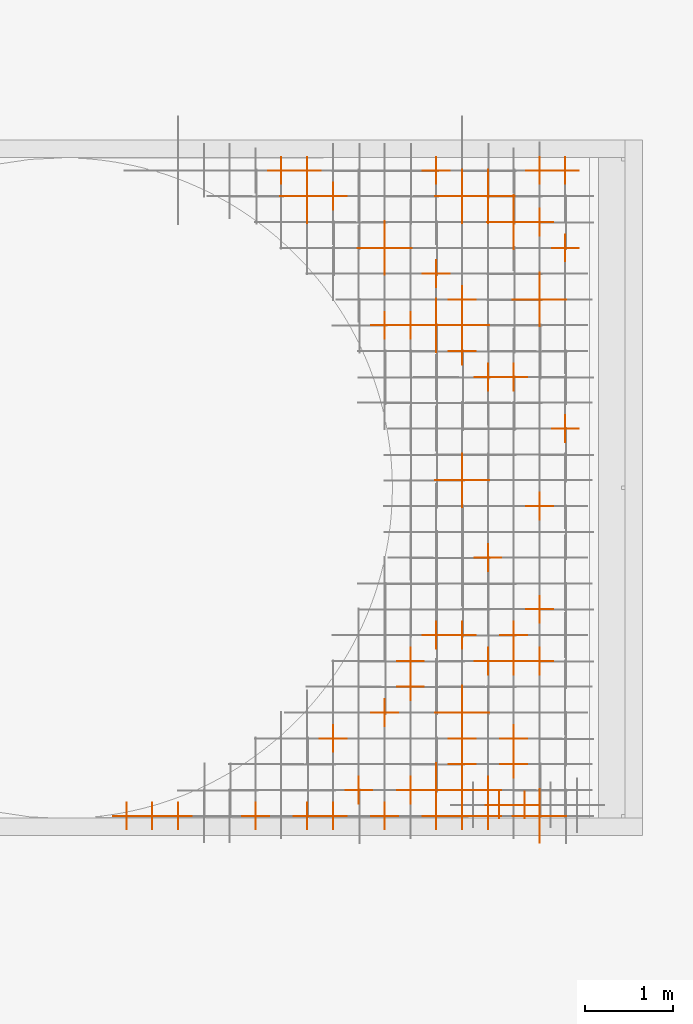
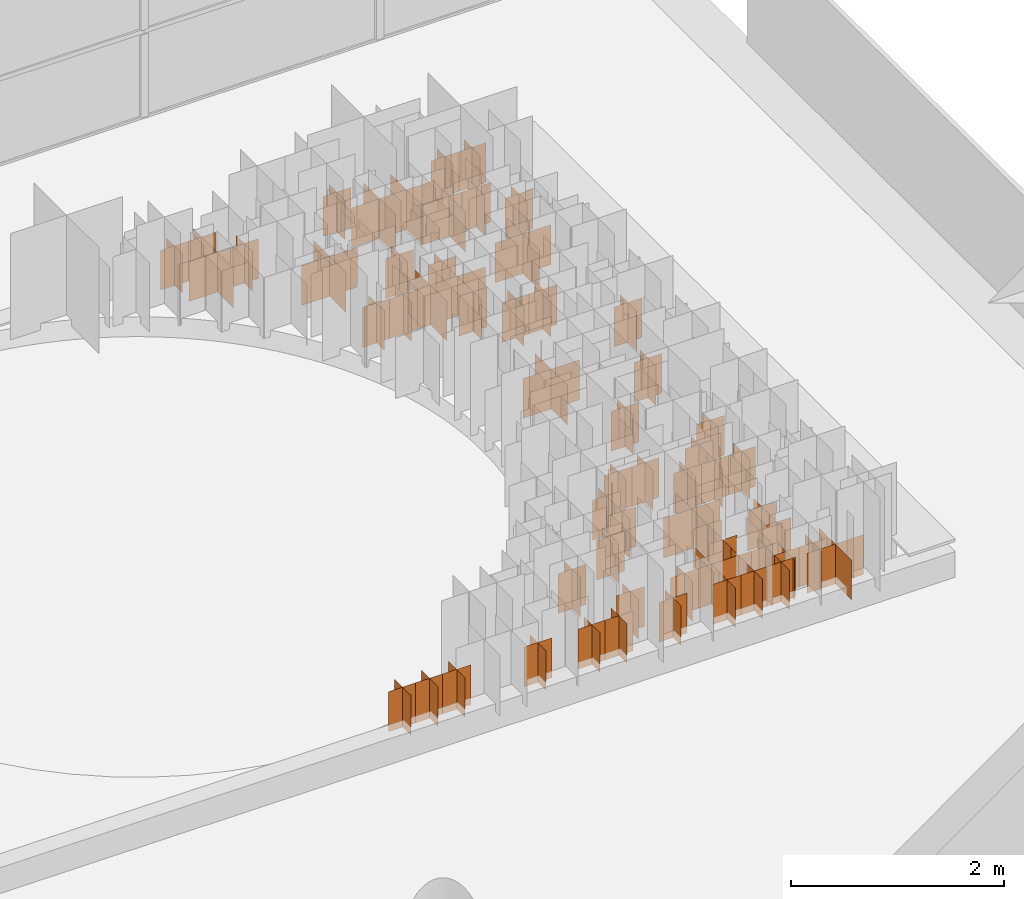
# One storey, part 105 of 105: 61 geographic elements.
"""IFC4 building model written with IfcOpenShell, lengths in millimetres."""

from ifc_helpers import new_model, entity, si_unit, converted_unit, derived_unit, direction, frame, origin_with_axes, place, context, subcontext, project, spatial, triangles, material, type_object, element, save


model = new_model("IFC4")

# Units and contexts
model_context = context("Model", 3, precision=1e-05, world=origin_with_axes(), true_north=direction((0.0, 1.0)))
body_context = subcontext(model_context, "Body", "Model", "MODEL_VIEW")
ifc_project = project(units=[si_unit("LENGTHUNIT", "METRE", prefix="MILLI"), si_unit("AREAUNIT", "SQUARE_METRE"), si_unit("VOLUMEUNIT", "CUBIC_METRE"), converted_unit("PLANEANGLEUNIT", "DEGREE", entity("IfcLengthMeasure", 0.017453), si_unit("PLANEANGLEUNIT", "RADIAN"), dimensions=[0, 0, 0, 0, 0, 0, 0]), si_unit("SOLIDANGLEUNIT", "STERADIAN"), si_unit("MASSUNIT", "GRAM"), si_unit("TIMEUNIT", "SECOND"), si_unit("THERMODYNAMICTEMPERATUREUNIT", "DEGREE_CELSIUS"), si_unit("LUMINOUSINTENSITYUNIT", "LUMEN"), si_unit("POWERUNIT", "WATT"), derived_unit("THERMALTRANSMITTANCEUNIT", [(si_unit("POWERUNIT", "WATT"), 1), (si_unit("THERMODYNAMICTEMPERATUREUNIT", "KELVIN"), -1), (si_unit("AREAUNIT", "SQUARE_METRE"), -1)])], contexts=[model_context])

# Site, building, storey
site_placement = place(None, origin_with_axes())
site = spatial("IfcSite", under=ifc_project, at=site_placement, Name="Default Site", CompositionType="ELEMENT")
building_placement = place(site_placement, origin_with_axes())
building = spatial("IfcBuilding", under=site, at=building_placement, Name="Default Building", CompositionType="ELEMENT")
storey_placement = place(building_placement, origin_with_axes())
storey = spatial("IfcBuildingStorey", under=building, at=storey_placement, Name="OG - Story", CompositionType="ELEMENT", Elevation=0.0)

# Geographic elements
ifc_material = material(Name="Plant Material")
geographic_element_type_1 = type_object("IfcGeographicElementType", Name="Contemporary Garden", PredefinedType="NOTDEFINED")
placement = place(storey_placement, frame((70423.72863, -30441.633075, 3200.0), z_axis=(0.0, 0.0, 1.0), x_axis=(1.0, 0.0, 0.0)))
for number, where, z_axis, x_axis, name in (
    (1, (4545.320752, -6302.57977, 0.0), (0.0, 0.0, 1.0), (1.0, 0.0, 0.0), "Hidcote Lavender"),
    (2, (5425.060252, -7475.565771, 0.0), (0.0, 0.0, 1.0), (1.0, 0.0, 0.0), "Hidcote Lavender"),
    (3, (4545.320752, -3663.361269, 0.0), (0.0, 0.0, 1.0), (1.0, 0.0, 0.0), "Hidcote Lavender"),
    (4, (4545.320752, -1903.882269, 0.0), (0.0, 0.0, 1.0), (1.0, 0.0, 0.0), "Hidcote Lavender"),
    (5, (5131.813752, -730.896268, 0.0), (0.0, 0.0, 1.0), (1.0, 0.0, 0.0), "Hidcote Lavender"),
    (6, (4252.074252, -7182.319271, 0.0), (0.0, 0.0, 1.0), (1.0, 0.0, 0.0), "Hidcote Lavender"),
    (7, (2785.841751, -437.649768, 0.0), (0.0, 0.0, 1.0), (1.0, 0.0, 0.0), "Hidcote Lavender"),
    (8, (4252.074252, -1903.882269, 0.0), (0.0, 0.0, 1.0), (1.0, 0.0, 0.0), "Hidcote Lavender"),
    (9, (4545.320752, -437.649768, 0.0), (0.0, 0.0, 1.0), (1.0, 0.0, 0.0), "Hidcote Lavender"),
    (10, (3665.581251, -1024.142768, 0.0), (0.0, 0.0, 1.0), (1.0, 0.0, 0.0), "Hidcote Lavender"),
    (11, (5425.060252, -1610.635769, 0.0), (0.0, 0.0, 1.0), (1.0, 0.0, 0.0), "Hidcote Lavender"),
    (12, (4838.567252, -437.649768, 0.0), (0.0, 0.0, 1.0), (1.0, 0.0, 0.0), "Hidcote Lavender"),
):
    element("IfcGeographicElement", number, at=place(placement, frame(where, z_axis=z_axis, x_axis=x_axis)), inside=storey, type_object=geographic_element_type_1, material=ifc_material, Name=name, ObjectType="Lavandula angustifolia 'Hidcote'", context=body_context, shape_type="Tessellation", body=[
        triangles([(-304.799, 0.0, 0.0), (304.8, 0.0, 0.0), (304.8, 0.0, 457.2), (-304.799, 0.0, 457.2)], [[1, 2, 3], [1, 3, 4]], closed=False),
        triangles([(0.0, -304.799, 0.0), (0.0, 304.8, 0.0), (0.0, 304.8, 457.2), (0.0, -304.799, 457.2)], [[1, 2, 3], [1, 3, 4]], closed=False),
    ])
geographic_element_type_2 = type_object("IfcGeographicElementType", Name="Contemporary Garden", PredefinedType="NOTDEFINED")
for number, where, z_axis, x_axis, name in (
    (13, (3665.581251, -1903.882269, 0.0), (0.0, 0.0, 1.0), (1.0, 0.0, 0.0), "Tufted Hair Grass"),
    (14, (4252.074252, -7475.565771, 0.0), (0.0, 0.0, 1.0), (1.0, 0.0, 0.0), "Tufted Hair Grass"),
    (15, (5425.060252, -5716.08677, 0.0), (0.0, 0.0, 1.0), (1.0, 0.0, 0.0), "Tufted Hair Grass"),
    (16, (4838.567252, -4543.10077, 0.0), (0.0, 0.0, 1.0), (1.0, 0.0, 0.0), "Tufted Hair Grass"),
    (17, (4252.074252, -1317.389268, 0.0), (0.0, 0.0, 1.0), (1.0, 0.0, 0.0), "Tufted Hair Grass"),
    (18, (4838.567252, -5716.08677, 0.0), (0.0, 0.0, 1.0), (1.0, 0.0, 0.0), "Tufted Hair Grass"),
    (19, (3665.581251, -7475.565771, 0.0), (0.0, 0.0, 1.0), (1.0, 0.0, 0.0), "Tufted Hair Grass"),
    (20, (3958.827751, -1903.882269, 0.0), (0.0, 0.0, 1.0), (1.0, 0.0, 0.0), "Tufted Hair Grass"),
    (21, (5131.813752, -5716.08677, 0.0), (0.0, 0.0, 1.0), (1.0, 0.0, 0.0), "Tufted Hair Grass"),
    (22, (3079.088251, -6595.82627, 0.0), (0.0, 0.0, 1.0), (1.0, 0.0, 0.0), "Tufted Hair Grass"),
    (23, (1026.36275, -7475.565771, 0.0), (0.0, 0.0, 1.0), (1.0, 0.0, 0.0), "Tufted Hair Grass"),
    (24, (2785.841751, -144.403268, 0.0), (0.0, 0.0, 1.0), (1.0, 0.0, 0.0), "Tufted Hair Grass"),
    (25, (4545.320752, -1610.635769, 0.0), (0.0, 0.0, 1.0), (1.0, 0.0, 0.0), "Tufted Hair Grass"),
    (26, (4545.320752, -6595.82627, 0.0), (0.0, 0.0, 1.0), (1.0, 0.0, 0.0), "Tufted Hair Grass"),
    (27, (3958.827751, -6009.33327, 0.0), (0.0, 0.0, 1.0), (1.0, 0.0, 0.0), "Tufted Hair Grass"),
    (28, (4252.074252, -144.403268, 0.0), (0.0, 0.0, 1.0), (1.0, 0.0, 0.0), "Tufted Hair Grass"),
    (29, (5131.813752, -6595.82627, 0.0), (0.0, 0.0, 1.0), (1.0, 0.0, 0.0), "Tufted Hair Grass"),
    (30, (4545.320752, -2197.128769, 0.0), (0.0, 0.0, 1.0), (1.0, 0.0, 0.0), "Tufted Hair Grass"),
    (31, (5425.060252, -144.403268, 0.0), (0.0, 0.0, 1.0), (1.0, 0.0, 0.0), "Tufted Hair Grass"),
    (32, (5718.306752, -144.403268, 0.0), (0.0, 0.0, 1.0), (1.0, 0.0, 0.0), "Tufted Hair Grass"),
    (33, (3665.581251, -6302.57977, 0.0), (0.0, 0.0, 1.0), (1.0, 0.0, 0.0), "Tufted Hair Grass"),
    (34, (4545.320752, -7475.565771, 0.0), (0.0, 0.0, 1.0), (1.0, 0.0, 0.0), "Tufted Hair Grass"),
    (35, (3372.334751, -7182.319271, 0.0), (0.0, 0.0, 1.0), (1.0, 0.0, 0.0), "Tufted Hair Grass"),
    (36, (2492.595251, -144.403268, 0.0), (0.0, 0.0, 1.0), (1.0, 0.0, 0.0), "Tufted Hair Grass"),
    (37, (4838.567252, -7182.319271, 0.0), (0.0, 0.0, 1.0), (1.0, 0.0, 0.0), "Tufted Hair Grass"),
    (38, (4545.320752, -7182.319271, 0.0), (0.0, 0.0, 1.0), (1.0, 0.0, 0.0), "Tufted Hair Grass"),
    (39, (5131.813752, -5422.84027, 0.0), (0.0, 0.0, 1.0), (1.0, 0.0, 0.0), "Tufted Hair Grass"),
    (40, (3079.088251, -437.649768, 0.0), (0.0, 0.0, 1.0), (1.0, 0.0, 0.0), "Tufted Hair Grass"),
    (41, (3958.827751, -7182.319271, 0.0), (0.0, 0.0, 1.0), (1.0, 0.0, 0.0), "Tufted Hair Grass"),
    (42, (5131.813752, -2490.375269, 0.0), (0.0, 0.0, 1.0), (1.0, 0.0, 0.0), "Tufted Hair Grass"),
    (43, (5425.060252, -5129.59377, 0.0), (0.0, 0.0, 1.0), (1.0, 0.0, 0.0), "Tufted Hair Grass"),
    (44, (4545.320752, -6889.07277, 0.0), (0.0, 0.0, 1.0), (1.0, 0.0, 0.0), "Tufted Hair Grass"),
    (45, (4545.320752, -5422.84027, 0.0), (0.0, 0.0, 1.0), (1.0, 0.0, 0.0), "Tufted Hair Grass"),
    (46, (1319.60925, -7475.565771, 0.0), (0.0, 0.0, 1.0), (1.0, 0.0, 0.0), "Tufted Hair Grass"),
    (47, (5718.306752, -3076.868269, 0.0), (0.0, 0.0, 1.0), (1.0, 0.0, 0.0), "Tufted Hair Grass"),
    (48, (4252.074252, -5422.84027, 0.0), (0.0, 0.0, 1.0), (1.0, 0.0, 0.0), "Tufted Hair Grass"),
    (49, (733.11625, -7475.565771, 0.0), (0.0, 0.0, 1.0), (1.0, 0.0, 0.0), "Tufted Hair Grass"),
    (50, (5131.813752, -6889.07277, 0.0), (0.0, 0.0, 1.0), (1.0, 0.0, 0.0), "Tufted Hair Grass"),
    (51, (2785.841751, -7475.565771, 0.0), (0.0, 0.0, 1.0), (1.0, 0.0, 0.0), "Tufted Hair Grass"),
    (52, (3958.827751, -5716.08677, 0.0), (0.0, 0.0, 1.0), (1.0, 0.0, 0.0), "Tufted Hair Grass"),
    (53, (4963.90862, -7350.453174, 0.0), (0.0, 0.0, 1.0), (1.0, 0.0, 0.0), "Tufted Hair Grass"),
    (54, (5718.306752, -1024.142768, 0.0), (0.0, 0.0, 1.0), (1.0, 0.0, 0.0), "Tufted Hair Grass"),
    (55, (2199.348751, -7475.565771, 0.0), (0.0, 0.0, 1.0), (1.0, 0.0, 0.0), "Tufted Hair Grass"),
    (56, (3079.088251, -7475.565771, 0.0), (0.0, 0.0, 1.0), (1.0, 0.0, 0.0), "Tufted Hair Grass"),
    (57, (4838.567252, -2490.375269, 0.0), (0.0, 0.0, 1.0), (1.0, 0.0, 0.0), "Tufted Hair Grass"),
    (58, (5425.060252, -3956.607769, 0.0), (0.0, 0.0, 1.0), (1.0, 0.0, 0.0), "Tufted Hair Grass"),
    (59, (5257.15512, -7350.453174, 0.0), (0.0, 0.0, 1.0), (1.0, 0.0, 0.0), "Tufted Hair Grass"),
    (60, (4838.567252, -7475.565771, 0.0), (0.0, 0.0, 1.0), (1.0, 0.0, 0.0), "Tufted Hair Grass"),
    (61, (5425.060252, -730.896268, 0.0), (0.0, 0.0, 1.0), (1.0, 0.0, 0.0), "Tufted Hair Grass"),
):
    element("IfcGeographicElement", number, at=place(placement, frame(where, z_axis=z_axis, x_axis=x_axis)), inside=storey, type_object=geographic_element_type_2, material=ifc_material, Name=name, ObjectType="Deschampsia caespitosa", context=body_context, shape_type="Tessellation", body=[
        triangles([(-152.399, 0.0, 0.0), (152.4, 0.0, 0.0), (152.4, 0.0, 457.2), (-152.399, 0.0, 457.2)], [[1, 2, 3], [1, 3, 4]], closed=False),
        triangles([(0.0, -152.399, 0.0), (0.0, 152.4, 0.0), (0.0, 152.4, 457.2), (0.0, -152.399, 457.2)], [[1, 2, 3], [1, 3, 4]], closed=False),
    ])

save(model, "model.ifc")
